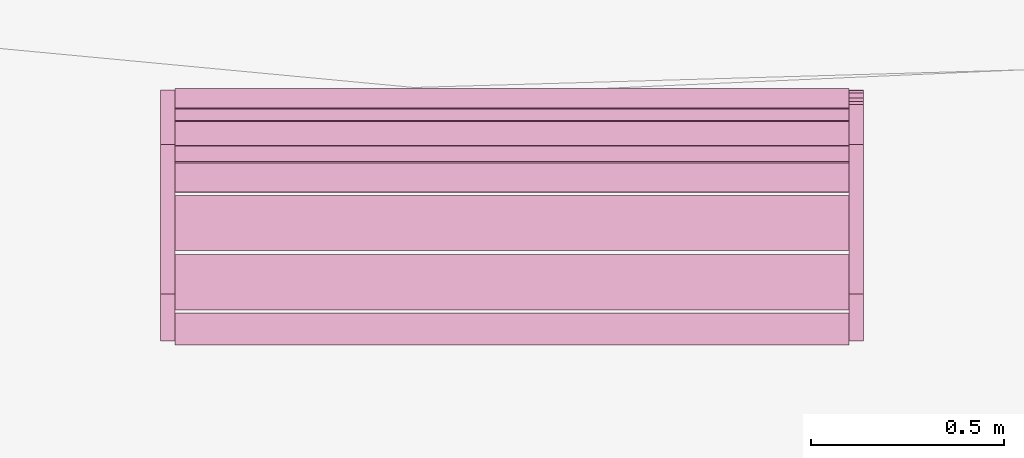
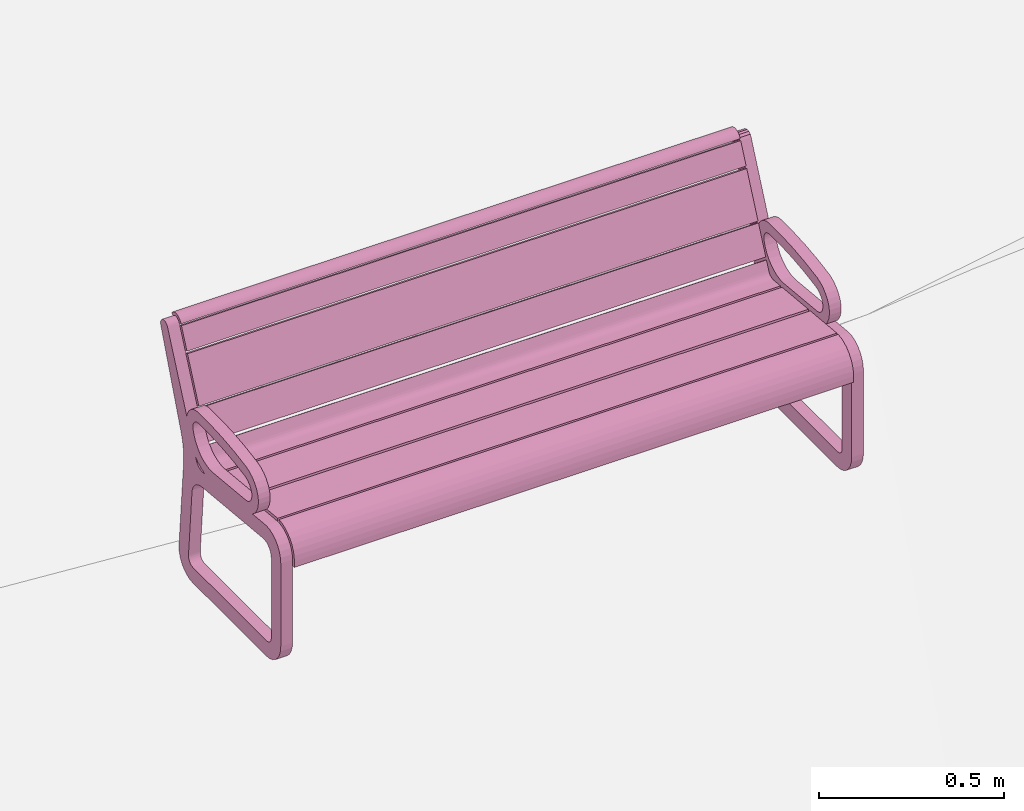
# One storey, part 57 of 75: 1 furnishing.
"""IFC2X3 building model written with IfcOpenShell, lengths in metres."""

from ifc_helpers import new_model, entity, si_unit, converted_unit, derived_unit, direction, frame, frame_2d, origin, place, context, subcontext, project, spatial, polyline, circle_curve, parameter, trimmed, segment, composite_curve, outline, extrude, source, transform, mapped, material, material_list, type_object, type_shapes, element, save


model = new_model("IFC2X3")

# Units and contexts
model_context = context("Model", 3, precision=1e-05, world=origin(), true_north=direction((6.123031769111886e-17, 1.0)))
body_context = subcontext(model_context, "Body", "Model", "MODEL_VIEW")
ifc_project = project(units=[si_unit("LENGTHUNIT", "METRE"), si_unit("AREAUNIT", "SQUARE_METRE"), si_unit("VOLUMEUNIT", "CUBIC_METRE"), converted_unit("PLANEANGLEUNIT", "DEGREE", entity("IfcRatioMeasure", 0.017453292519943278), si_unit("PLANEANGLEUNIT", "RADIAN"), dimensions=[0, 0, 0, 0, 0, 0, 0]), si_unit("MASSUNIT", "GRAM", prefix="KILO"), derived_unit("MASSDENSITYUNIT", [(si_unit("MASSUNIT", "GRAM", prefix="KILO"), 1), (si_unit("LENGTHUNIT", "METRE"), -3)]), derived_unit("IONCONCENTRATIONUNIT", [(si_unit("MASSUNIT", "GRAM", prefix="KILO"), 1), (si_unit("LENGTHUNIT", "METRE"), -3)]), derived_unit("MOMENTOFINERTIAUNIT", [(si_unit("LENGTHUNIT", "METRE"), 4)]), si_unit("TIMEUNIT", "SECOND"), si_unit("FREQUENCYUNIT", "HERTZ"), si_unit("THERMODYNAMICTEMPERATUREUNIT", "DEGREE_CELSIUS"), derived_unit("THERMALTRANSMITTANCEUNIT", [(si_unit("MASSUNIT", "GRAM", prefix="KILO"), 1), (si_unit("THERMODYNAMICTEMPERATUREUNIT", "KELVIN"), -1), (si_unit("TIMEUNIT", "SECOND"), -3)]), derived_unit("THERMALCONDUCTANCEUNIT", [(si_unit("MASSUNIT", "GRAM", prefix="KILO"), 1), (si_unit("THERMODYNAMICTEMPERATUREUNIT", "KELVIN"), -1), (si_unit("TIMEUNIT", "SECOND"), -3), (si_unit("LENGTHUNIT", "METRE"), 1)]), derived_unit("VOLUMETRICFLOWRATEUNIT", [(si_unit("LENGTHUNIT", "METRE"), 3), (si_unit("TIMEUNIT", "SECOND"), -1)]), derived_unit("MASSFLOWRATEUNIT", [(si_unit("MASSUNIT", "GRAM", prefix="KILO"), 1), (si_unit("TIMEUNIT", "SECOND"), -1)]), derived_unit("ROTATIONALFREQUENCYUNIT", [(si_unit("TIMEUNIT", "SECOND"), -1)]), si_unit("ELECTRICCURRENTUNIT", "AMPERE"), si_unit("ELECTRICVOLTAGEUNIT", "VOLT"), si_unit("POWERUNIT", "WATT"), si_unit("FORCEUNIT", "NEWTON", prefix="KILO"), si_unit("ILLUMINANCEUNIT", "LUX"), si_unit("LUMINOUSFLUXUNIT", "LUMEN"), si_unit("LUMINOUSINTENSITYUNIT", "CANDELA"), derived_unit("USERDEFINED", [(si_unit("MASSUNIT", "GRAM", prefix="KILO"), -1), (si_unit("LENGTHUNIT", "METRE"), -2), (si_unit("TIMEUNIT", "SECOND"), 3), (si_unit("LUMINOUSFLUXUNIT", "LUMEN"), 1)]), derived_unit("USERDEFINED", [(si_unit("MASSUNIT", "GRAM", prefix="KILO"), 1), (si_unit("TIMEUNIT", "SECOND"), -3), (si_unit("LENGTHUNIT", "METRE"), 3), (si_unit("ELECTRICCURRENTUNIT", "AMPERE"), -2)]), derived_unit("SOUNDPOWERUNIT", [(si_unit("MASSUNIT", "GRAM", prefix="KILO"), 1), (si_unit("TIMEUNIT", "SECOND"), -3), (si_unit("LENGTHUNIT", "METRE"), 2)]), derived_unit("SOUNDPRESSUREUNIT", [(si_unit("MASSUNIT", "GRAM", prefix="KILO"), 1), (si_unit("LENGTHUNIT", "METRE"), -1), (si_unit("TIMEUNIT", "SECOND"), -2)]), derived_unit("LINEARVELOCITYUNIT", [(si_unit("LENGTHUNIT", "METRE"), 1), (si_unit("TIMEUNIT", "SECOND"), -1)]), si_unit("PRESSUREUNIT", "PASCAL"), derived_unit("USERDEFINED", [(si_unit("MASSUNIT", "GRAM", prefix="KILO"), 1), (si_unit("LENGTHUNIT", "METRE"), -2), (si_unit("TIMEUNIT", "SECOND"), -2)]), derived_unit("LINEARFORCEUNIT", [(si_unit("MASSUNIT", "GRAM", prefix="KILO"), 1), (si_unit("TIMEUNIT", "SECOND"), -2)]), derived_unit("PLANARFORCEUNIT", [(si_unit("MASSUNIT", "GRAM", prefix="KILO"), 1), (si_unit("LENGTHUNIT", "METRE"), -1), (si_unit("TIMEUNIT", "SECOND"), -2)]), derived_unit("SPECIFICHEATCAPACITYUNIT", [(si_unit("THERMODYNAMICTEMPERATUREUNIT", "KELVIN"), -1), (si_unit("LENGTHUNIT", "METRE"), 2), (si_unit("TIMEUNIT", "SECOND"), -2)]), derived_unit("HEATINGVALUEUNIT", [(si_unit("LENGTHUNIT", "METRE"), 2), (si_unit("TIMEUNIT", "SECOND"), -2)]), derived_unit("VAPORPERMEABILITYUNIT", [(si_unit("LENGTHUNIT", "METRE"), -1), (si_unit("TIMEUNIT", "SECOND"), 1)]), derived_unit("DYNAMICVISCOSITYUNIT", [(si_unit("MASSUNIT", "GRAM", prefix="KILO"), 1), (si_unit("TIMEUNIT", "SECOND"), -1), (si_unit("LENGTHUNIT", "METRE"), -1)]), derived_unit("THERMALEXPANSIONCOEFFICIENTUNIT", [(si_unit("THERMODYNAMICTEMPERATUREUNIT", "KELVIN"), -1)]), derived_unit("MODULUSOFELASTICITYUNIT", [(si_unit("MASSUNIT", "GRAM", prefix="KILO"), 1), (si_unit("LENGTHUNIT", "METRE"), -1), (si_unit("TIMEUNIT", "SECOND"), -2)]), derived_unit("ISOTHERMALMOISTURECAPACITYUNIT", [(si_unit("LENGTHUNIT", "METRE"), 3), (si_unit("MASSUNIT", "GRAM", prefix="KILO"), -1)]), derived_unit("MOISTUREDIFFUSIVITYUNIT", [(si_unit("TIMEUNIT", "SECOND"), -1), (si_unit("LENGTHUNIT", "METRE"), 2)])], contexts=[model_context])

# Site, building, storey
site_placement = place(None, origin())
site = spatial("IfcSite", under=ifc_project, at=site_placement, Name="Default", CompositionType="ELEMENT")
building_placement = place(site_placement, origin())
building = spatial("IfcBuilding", under=site, at=building_placement, Name="Projeto", CompositionType="ELEMENT")
storey_placement = place(building_placement, origin())
storey = spatial("IfcBuildingStorey", under=building, at=storey_placement, Name="Nível 1", CompositionType="ELEMENT", Elevation=0.0)

# Furnishing
ifc_material_1 = material(Name="Metal")
ifc_material_2 = material(Name="Madeira")
ifc_material_list = material_list([ifc_material_1, ifc_material_2])
furniture_type = type_object("IfcFurnitureType", Name="Banco2:Banco com encosto 2", material=ifc_material_list)
shared_shape = source(origin(), body_context, "Body", "SweptSolid", [
    extrude(outline(composite_curve([segment(trimmed(circle_curve(frame_2d((0.11049343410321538, -1.0854981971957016), x_axis=(1.0, 0.0)), 1.171677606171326), [parameter(88.41710441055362)], [parameter(101.21342132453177)], True, "PARAMETER"), True, "CONTINUOUS"), segment(trimmed(circle_curve(frame_2d((-0.09835310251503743, -0.021288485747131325), x_axis=(1.0, 0.0)), 0.08719596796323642), [parameter(102.58755744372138)], [parameter(147.59513327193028)], True, "PARAMETER"), True, "CONTINUOUS"), segment(trimmed(circle_curve(frame_2d((-0.11287135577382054, -0.01207319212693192), x_axis=(1.0, 0.0)), 0.07), [parameter(147.59513327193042)], [parameter(264.4181452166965)], True, "PARAMETER"), True, "CONTINUOUS"), segment(polyline([(-0.11968009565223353, -0.08174126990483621), (0.06172922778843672, -0.09947060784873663)]), True, "CONTINUOUS"), segment(trimmed(circle_curve(frame_2d((0.07131434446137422, 0.036752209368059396), x_axis=(1.0, 0.0)), 0.1365596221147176), [parameter(265.97510108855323)], [parameter(347.08405761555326)], True, "PARAMETER"), True, "CONTINUOUS"), segment(trimmed(circle_curve(frame_2d((0.14106343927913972, 0.02075710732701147), x_axis=(1.0, 0.0)), 0.06499999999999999), [parameter(347.08405761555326)], [parameter(88.41710441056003)], True, "PARAMETER"), True, "CONTINUOUS")], self_intersect=False), holes=[composite_curve([segment(trimmed(circle_curve(frame_2d((0.11049343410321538, -1.0854981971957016), x_axis=(1.0, 0.0)), 1.136677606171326), [parameter(88.41710441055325)], [parameter(101.1897224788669)], True, "PARAMETER"), False, "CONTINUOUS"), segment(trimmed(circle_curve(frame_2d((0.14106343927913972, 0.02075710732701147), x_axis=(1.0, 0.0)), 0.03), [parameter(347.0840576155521)], [parameter(88.41710441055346)], True, "PARAMETER"), False, "CONTINUOUS"), segment(trimmed(circle_curve(frame_2d((0.07131434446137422, 0.036752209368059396), x_axis=(1.0, 0.0)), 0.10155962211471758), [parameter(266.2235788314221)], [parameter(347.0840576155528)], True, "PARAMETER"), False, "CONTINUOUS"), segment(polyline([(0.06462529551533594, -0.06458689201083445), (-0.11627572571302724, -0.04690723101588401)]), True, "CONTINUOUS"), segment(trimmed(circle_curve(frame_2d((-0.11287135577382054, -0.01207319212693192), x_axis=(1.0, 0.0)), 0.035), [parameter(147.5951332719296)], [parameter(264.418145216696)], True, "PARAMETER"), False, "CONTINUOUS"), segment(trimmed(circle_curve(frame_2d((-0.09835310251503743, -0.021288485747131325), x_axis=(1.0, 0.0)), 0.052195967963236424), [parameter(102.99295780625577)], [parameter(147.5951332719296)], True, "PARAMETER"), False, "CONTINUOUS")], self_intersect=False)]), frame((-0.9081480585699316, 0.012362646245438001, 0.4935308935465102), z_axis=(1.0, 0.0, 0.0), x_axis=(0.0, 1.0, 0.0)), (0.0, 0.0, 1.0), 0.036770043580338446),
    extrude(outline(composite_curve([segment(trimmed(circle_curve(frame_2d((-0.11287135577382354, -0.012073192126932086), x_axis=(1.0, 0.0)), 0.07), [parameter(147.59513327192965)], [parameter(264.4181452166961)], True, "PARAMETER"), True, "CONTINUOUS"), segment(polyline([(-0.11968009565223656, -0.08174126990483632), (0.06172922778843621, -0.09947060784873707)]), True, "CONTINUOUS"), segment(trimmed(circle_curve(frame_2d((0.07131434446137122, 0.03675220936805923), x_axis=(1.0, 0.0)), 0.1365596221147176), [parameter(265.9751010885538)], [parameter(347.0840576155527)], True, "PARAMETER"), True, "CONTINUOUS"), segment(trimmed(circle_curve(frame_2d((0.14106343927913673, 0.020757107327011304), x_axis=(1.0, 0.0)), 0.06499999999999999), [parameter(347.08405761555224)], [parameter(88.41710441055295)], True, "PARAMETER"), True, "CONTINUOUS"), segment(trimmed(circle_curve(frame_2d((0.11049343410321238, -1.0854981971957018), x_axis=(1.0, 0.0)), 1.171677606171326), [parameter(88.41710441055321)], [parameter(101.21342132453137)], True, "PARAMETER"), True, "CONTINUOUS"), segment(trimmed(circle_curve(frame_2d((-0.09835310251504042, -0.02128848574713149), x_axis=(1.0, 0.0)), 0.08719596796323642), [parameter(102.587557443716)], [parameter(147.5951332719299)], True, "PARAMETER"), True, "CONTINUOUS")], self_intersect=False), holes=[composite_curve([segment(trimmed(circle_curve(frame_2d((0.11049343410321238, -1.0854981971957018), x_axis=(1.0, 0.0)), 1.136677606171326), [parameter(88.41710441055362)], [parameter(101.18972247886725)], True, "PARAMETER"), False, "CONTINUOUS"), segment(trimmed(circle_curve(frame_2d((0.14106343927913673, 0.020757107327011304), x_axis=(1.0, 0.0)), 0.03), [parameter(347.0840576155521)], [parameter(88.4171044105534)], True, "PARAMETER"), False, "CONTINUOUS"), segment(trimmed(circle_curve(frame_2d((0.07131434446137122, 0.03675220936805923), x_axis=(1.0, 0.0)), 0.10155962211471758), [parameter(266.2235788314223)], [parameter(347.08405761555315)], True, "PARAMETER"), False, "CONTINUOUS"), segment(polyline([(0.064625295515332, -0.06458689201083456), (-0.11627572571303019, -0.04690723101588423)]), True, "CONTINUOUS"), segment(trimmed(circle_curve(frame_2d((-0.11287135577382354, -0.012073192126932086), x_axis=(1.0, 0.0)), 0.035), [parameter(147.59513327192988)], [parameter(264.41814521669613)], True, "PARAMETER"), False, "CONTINUOUS"), segment(trimmed(circle_curve(frame_2d((-0.09835310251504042, -0.02128848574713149), x_axis=(1.0, 0.0)), 0.052195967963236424), [parameter(102.99295780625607)], [parameter(147.59513327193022)], True, "PARAMETER"), False, "CONTINUOUS")], self_intersect=False)]), frame((0.8717509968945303, 0.012362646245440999, 0.49353089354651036), z_axis=(1.0, 0.0, 0.0), x_axis=(0.0, 1.0, 0.0)), (0.0, 0.0, 1.0), 0.036770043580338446),
    extrude(outline(composite_curve([segment(polyline([(-0.040740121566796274, -0.021081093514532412), (-0.040740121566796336, -0.031081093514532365)]), True, "CONTINUOUS"), segment(polyline([(-0.040740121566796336, -0.031081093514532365), (-0.020775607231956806, -0.0310810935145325)]), True, "CONTINUOUS"), segment(trimmed(circle_curve(frame_2d((-0.020775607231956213, 0.056315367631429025), x_axis=(0.0, 1.0)), 0.08739646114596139), [parameter(179.99999999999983)], [parameter(267.27621266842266)], True, "PARAMETER"), True, "CONTINUOUS"), segment(polyline([(0.0665221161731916, 0.05216218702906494), (0.056509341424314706, 0.05216218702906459)]), True, "CONTINUOUS"), segment(trimmed(circle_curve(frame_2d((-0.020775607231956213, 0.056315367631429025), x_axis=(0.0, 1.0)), 0.0773964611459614), [parameter(179.99999999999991)], [parameter(266.9239669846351)], True, "PARAMETER"), False, "CONTINUOUS"), segment(polyline([(-0.020775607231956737, -0.02108109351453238), (-0.040740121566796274, -0.021081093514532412)]), True, "CONTINUOUS")], self_intersect=False)), frame((-0.8713780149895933, -0.2701642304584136, 0.37277559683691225), z_axis=(-1.0, 0.0, 0.0), x_axis=(0.0, 0.0, 1.0)), (0.0, 0.0, -1.0), 1.743129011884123),
    extrude(outline(composite_curve([segment(polyline([(-0.016599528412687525, 0.004708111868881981), (-0.02584492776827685, 0.0008972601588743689)]), True, "CONTINUOUS"), segment(trimmed(circle_curve(frame_2d((0.0016188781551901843, 0.01221753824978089), x_axis=(1.0, 0.0)), 0.02970537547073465), [parameter(202.40091685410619)], [parameter(321.2632484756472)], True, "PARAMETER"), True, "CONTINUOUS"), segment(polyline([(0.024789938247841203, -0.006370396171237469), (0.017654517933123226, 0.0007650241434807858)]), True, "CONTINUOUS"), segment(trimmed(circle_curve(frame_2d((0.0016188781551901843, 0.01221753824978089), x_axis=(1.0, 0.0)), 0.019705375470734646), [parameter(202.40091685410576)], [parameter(324.4659051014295)], True, "PARAMETER"), False, "CONTINUOUS")], self_intersect=False)), frame((-0.8713780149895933, 0.33648155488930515, 0.7644854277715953), z_axis=(-1.0, 0.0, 0.0), x_axis=(0.0, 1.0, 0.0)), (0.0, 0.0, -1.0), 1.743129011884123),
    extrude(outline(polyline([(-0.005365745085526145, -0.03631564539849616), (0.004634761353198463, -0.03631564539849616), (0.0053668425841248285, 0.036424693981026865), (-0.004635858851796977, 0.036206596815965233), (-0.005365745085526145, -0.03631564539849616)])), frame((-0.8713780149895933, 0.29830144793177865, 0.7240027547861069), z_axis=(1.0, 0.0, 0.0), x_axis=(0.0, 0.91601310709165, -0.40114833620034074)), (0.0, 0.0, 1.0), 1.7431290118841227),
    extrude(outline(polyline([(-0.01051906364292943, -0.07449598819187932), (-0.0004917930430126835, -0.07449598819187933), (0.010495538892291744, 0.07417766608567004), (0.0005153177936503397, 0.0748143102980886), (-0.01051906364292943, -0.07449598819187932)])), frame((-0.8713780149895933, 0.24994106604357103, 0.6165295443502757), z_axis=(1.0, 0.0, 0.0), x_axis=(0.0, -0.9396926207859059, 0.3420201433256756)), (0.0, 0.0, 1.0), 1.743129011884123),
    extrude(outline(composite_curve([segment(polyline([(-0.016081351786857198, -0.043029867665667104), (-0.00588824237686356, -0.043029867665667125)]), True, "CONTINUOUS"), segment(polyline([(-0.00588824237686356, -0.043029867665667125), (-0.011979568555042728, -0.01218317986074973)]), True, "CONTINUOUS"), segment(trimmed(circle_curve(frame_2d((0.012546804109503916, -0.007339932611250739), x_axis=(-0.81515665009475, -0.5792405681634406)), 0.024999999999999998), [parameter(264.5723980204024)], [parameter(335.77339088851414)], True, "PARAMETER"), False, "CONTINUOUS"), segment(polyline([(5.8314439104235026e-05, 0.014317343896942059), (0.03294269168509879, 0.03327984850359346)]), True, "CONTINUOUS"), segment(polyline([(0.03294269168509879, 0.03327984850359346), (0.027675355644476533, 0.041785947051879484)]), True, "CONTINUOUS"), segment(polyline([(0.027675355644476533, 0.041785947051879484), (-0.004937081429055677, 0.022980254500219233)]), True, "CONTINUOUS"), segment(trimmed(circle_curve(frame_2d((0.012546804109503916, -0.007339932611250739), x_axis=(-0.81515665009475, -0.5792405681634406)), 0.035), [parameter(264.57239802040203)], [parameter(335.77339088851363)], True, "PARAMETER"), True, "CONTINUOUS"), segment(polyline([(-0.021790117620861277, -0.014120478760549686), (-0.016081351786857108, -0.043029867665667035)]), True, "CONTINUOUS")], self_intersect=False)), frame((-0.8713780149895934, 0.13977130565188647, 0.4182722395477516), z_axis=(1.0, 0.0, 0.0), x_axis=(0.0, -0.8151566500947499, 0.5792405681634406)), (0.0, 0.0, 1.0), 1.743129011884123),
    extrude(outline(polyline([(-0.006796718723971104, -0.07203279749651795), (0.003206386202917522, -0.07203279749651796), (0.006796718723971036, 0.07203279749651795), (-0.003206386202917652, 0.07203279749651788), (-0.006796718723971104, -0.07203279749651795)])), frame((-0.8713780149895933, -0.1393406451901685, 0.4273396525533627), z_axis=(1.0, 0.0, 0.0), x_axis=(0.0, -0.0697564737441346, -0.9975640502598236)), (0.0, 0.0, 1.0), 1.743129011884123),
    extrude(outline(polyline([(-0.006778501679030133, -0.07130182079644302), (0.003224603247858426, -0.07130182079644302), (0.006776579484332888, 0.07122469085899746), (-0.003222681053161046, 0.07137895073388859), (-0.006778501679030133, -0.07130182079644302)])), frame((-0.8713780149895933, 0.013742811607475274, 0.4127945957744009), z_axis=(1.0, 0.0, 0.0), x_axis=(0.0, -0.06975647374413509, -0.9975640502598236)), (0.0, 0.0, 1.0), 1.7431290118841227),
    extrude(outline(polyline([(-0.048450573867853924, -0.004999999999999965), (0.04809148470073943, -0.00499999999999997), (0.04845057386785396, 0.004999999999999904), (-0.04809148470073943, 0.00499999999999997), (-0.048450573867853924, -0.004999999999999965)])), frame((-0.8713780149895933, 0.19719686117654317, 0.49931398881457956), z_axis=(1.0, 0.0, 0.0), x_axis=(0.0, 0.41034659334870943, 0.9119296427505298)), (0.0, 0.0, 1.0), 1.743129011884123),
    extrude(outline(composite_curve([segment(trimmed(circle_curve(frame_2d((0.11053550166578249, -0.26531949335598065), x_axis=(1.0, 0.0)), 0.0741700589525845), [parameter(269.9999999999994)], [parameter(359.99999999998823)], True, "PARAMETER"), True, "CONTINUOUS"), segment(polyline([(0.18470556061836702, -0.2653194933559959), (0.1595525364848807, 0.022180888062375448)]), True, "CONTINUOUS"), segment(trimmed(circle_curve(frame_2d((0.37871537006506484, 0.04135515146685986), x_axis=(1.0, 0.0)), 0.22), [parameter(159.0616200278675)], [parameter(184.99999999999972)], True, "PARAMETER"), False, "CONTINUOUS"), segment(polyline([(0.17324300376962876, 0.11997516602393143), (0.28258397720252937, 0.4057363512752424)]), True, "CONTINUOUS"), segment(trimmed(circle_curve(frame_2d((0.26417984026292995, 0.4127783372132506), x_axis=(1.0, 0.0)), 0.019705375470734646), [parameter(339.0616200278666)], [parameter(157.59908314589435)], True, "PARAMETER"), True, "CONTINUOUS"), segment(polyline([(0.2459614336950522, 0.4202877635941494), (0.09179222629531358, 0.0776713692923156)]), True, "CONTINUOUS"), segment(trimmed(circle_curve(frame_2d((0.05987468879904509, 0.09203350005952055), x_axis=(1.0, 0.0)), 0.035), [parameter(264.57239802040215)], [parameter(335.7733908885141)], True, "PARAMETER"), False, "CONTINUOUS"), segment(polyline([(0.05656411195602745, 0.05719042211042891), (-0.28776945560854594, 0.08990689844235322)]), True, "CONTINUOUS"), segment(trimmed(circle_curve(frame_2d((-0.28776945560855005, 0.012510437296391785), x_axis=(1.0, 0.0)), 0.0773964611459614), [parameter(89.99999999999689)], [parameter(180.00000000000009)], True, "PARAMETER"), True, "CONTINUOUS"), segment(polyline([(-0.3651659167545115, 0.012510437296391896), (-0.36516591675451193, -0.26116069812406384)]), True, "CONTINUOUS"), segment(trimmed(circle_curve(frame_2d((-0.28683706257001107, -0.2611606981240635), x_axis=(1.0, 0.0)), 0.07832885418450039), [parameter(180.00000000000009)], [parameter(269.9999999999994)], True, "PARAMETER"), True, "CONTINUOUS"), segment(polyline([(-0.2868370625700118, -0.33948955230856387), (0.11053550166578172, -0.33948955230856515)]), True, "CONTINUOUS")], self_intersect=False), holes=[composite_curve([segment(trimmed(circle_curve(frame_2d((-0.2900072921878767, -0.2643739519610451), x_axis=(1.0, 0.0)), 0.024093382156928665), [parameter(180.00000000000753)], [parameter(269.99996988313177)], True, "PARAMETER"), False, "CONTINUOUS"), segment(polyline([(-0.3141006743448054, -0.2643739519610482), (-0.31424768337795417, -0.002024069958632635)]), True, "CONTINUOUS"), segment(trimmed(circle_curve(frame_2d((-0.27424768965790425, -0.0020016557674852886), x_axis=(1.0, 0.0)), 0.04), [parameter(84.55058713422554)], [parameter(180.03210596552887)], True, "PARAMETER"), False, "CONTINUOUS"), segment(polyline([(-0.270449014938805, 0.03781756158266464), (0.06271226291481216, 0.006034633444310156)]), True, "CONTINUOUS"), segment(trimmed(circle_curve(frame_2d((0.0571819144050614, -0.05217104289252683), x_axis=(1.0, 0.0)), 0.058467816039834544), [parameter(15.427601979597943)], [parameter(84.57239802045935)], True, "PARAMETER"), False, "CONTINUOUS"), segment(polyline([(0.11354298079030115, -0.03661740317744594), (0.1331318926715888, -0.2624531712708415)]), True, "CONTINUOUS"), segment(trimmed(circle_curve(frame_2d((0.10927631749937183, -0.26452239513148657), x_axis=(1.0, 0.0)), 0.023945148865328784), [parameter(269.9999698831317)], [parameter(4.957407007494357)], True, "PARAMETER"), False, "CONTINUOUS"), segment(polyline([(0.10927630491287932, -0.28846754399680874), (-0.2900073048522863, -0.28846733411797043)]), True, "CONTINUOUS")], self_intersect=False)]), frame((-0.9081480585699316, 0.07392059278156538, 0.33948955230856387), z_axis=(1.0, 0.0, 0.0), x_axis=(0.0, 1.0, 0.0)), (0.0, 0.0, 1.0), 0.036770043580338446),
    extrude(outline(composite_curve([segment(polyline([(0.18938114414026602, -0.4554192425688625), (0.4161258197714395, -0.45541924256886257)]), True, "CONTINUOUS"), segment(trimmed(circle_curve(frame_2d((0.4161258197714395, -0.37709038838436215), x_axis=(0.0, 1.0)), 0.07832885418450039), [parameter(179.99999999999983)], [parameter(269.9999999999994)], True, "PARAMETER"), True, "CONTINUOUS"), segment(polyline([(0.49445467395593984, -0.3770903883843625), (0.4944546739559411, 0.02028217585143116)]), True, "CONTINUOUS"), segment(trimmed(circle_curve(frame_2d((0.4202846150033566, 0.02028217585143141), x_axis=(0.0, 1.0)), 0.0741700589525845), [parameter(269.9999999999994)], [parameter(359.9999999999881)], True, "PARAMETER"), True, "CONTINUOUS"), segment(polyline([(0.42028461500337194, 0.09445223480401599), (0.14135009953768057, 0.070048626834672)]), True, "CONTINUOUS"), segment(polyline([(0.14135009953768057, 0.070048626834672), (0.06724466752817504, 0.0706480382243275)]), True, "CONTINUOUS"), segment(polyline([(0.06724466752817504, 0.0706480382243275), (0.05054245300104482, 0.07293143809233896)]), True, "CONTINUOUS"), segment(polyline([(0.05054245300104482, 0.07293143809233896), (0.02318042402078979, 0.0792697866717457)]), True, "CONTINUOUS"), segment(polyline([(0.02318042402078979, 0.0792697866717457), (-0.008439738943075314, 0.09091696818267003)]), True, "CONTINUOUS"), segment(polyline([(-0.008439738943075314, 0.09091696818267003), (-0.239525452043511, 0.19019917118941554)]), True, "CONTINUOUS"), segment(polyline([(-0.239525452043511, 0.19019917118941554), (-0.24897247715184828, 0.19267336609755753)]), True, "CONTINUOUS"), segment(polyline([(-0.24897247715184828, 0.19267336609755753), (-0.2585521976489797, 0.1908481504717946)]), True, "CONTINUOUS"), segment(polyline([(-0.2585521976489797, 0.1908481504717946), (-0.26637134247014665, 0.18502063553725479)]), True, "CONTINUOUS"), segment(polyline([(-0.26637134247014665, 0.18502063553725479), (-0.27153759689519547, 0.17151869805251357)]), True, "CONTINUOUS"), segment(polyline([(-0.27153759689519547, 0.17151869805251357), (-0.2700706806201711, 0.16306645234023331)]), True, "CONTINUOUS"), segment(polyline([(-0.2700706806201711, 0.16306645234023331), (-0.2653226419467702, 0.1557081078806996)]), True, "CONTINUOUS"), segment(polyline([(-0.2653226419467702, 0.1557081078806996), (-0.25852015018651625, 0.1510151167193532)]), True, "CONTINUOUS"), segment(polyline([(-0.25852015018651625, 0.1510151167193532), (0.042700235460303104, 0.017105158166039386)]), True, "CONTINUOUS"), segment(polyline([(0.042700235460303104, 0.017105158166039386), (0.05453047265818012, 0.009731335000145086)]), True, "CONTINUOUS"), segment(polyline([(0.05453047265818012, 0.009731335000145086), (0.066355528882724, 0.0005990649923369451)]), True, "CONTINUOUS"), segment(polyline([(0.066355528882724, 0.0005990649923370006), (0.07245721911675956, -0.0055026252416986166)]), True, "CONTINUOUS"), segment(polyline([(0.07245721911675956, -0.0055026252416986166), (0.09064669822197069, -0.043723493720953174)]), True, "CONTINUOUS"), segment(polyline([(0.09064669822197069, -0.043723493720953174), (0.09238455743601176, -0.054096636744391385)]), True, "CONTINUOUS"), segment(polyline([(0.09238455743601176, -0.054096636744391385), (0.09388937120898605, -0.07458142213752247)]), True, "CONTINUOUS"), segment(polyline([(0.09388937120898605, -0.07458142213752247), (0.06505822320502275, -0.37802278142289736)]), True, "CONTINUOUS"), segment(trimmed(circle_curve(frame_2d((0.14245468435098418, -0.37802278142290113), x_axis=(0.0, 1.0)), 0.0773964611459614), [parameter(89.99999999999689)], [parameter(179.99999999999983)], True, "PARAMETER"), True, "CONTINUOUS"), segment(polyline([(0.14245468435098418, -0.4554192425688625), (0.18938114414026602, -0.4554192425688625)]), True, "CONTINUOUS")], self_intersect=False), holes=[composite_curve([segment(trimmed(circle_curve(frame_2d((0.41933907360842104, -0.38026061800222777), x_axis=(0.0, 1.0)), 0.024093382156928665), [parameter(180.0000000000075)], [parameter(269.99996988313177)], True, "PARAMETER"), False, "CONTINUOUS"), segment(polyline([(0.41933907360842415, -0.4043540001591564), (0.145329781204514, -0.40450754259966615)]), True, "CONTINUOUS"), segment(trimmed(circle_curve(frame_2d((0.14531330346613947, -0.3751016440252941), x_axis=(0.0, 1.0)), 0.029405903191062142), [parameter(90.00000904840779)], [parameter(180.03210596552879)], True, "PARAMETER"), False, "CONTINUOUS"), segment(polyline([(0.11590740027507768, -0.37510164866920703), (0.14893048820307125, -0.027541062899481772)]), True, "CONTINUOUS"), segment(trimmed(circle_curve(frame_2d((0.2071361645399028, -0.03307141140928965), x_axis=(0.0, 1.0)), 0.058467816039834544), [parameter(15.427601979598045)], [parameter(84.57239802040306)], True, "PARAMETER"), False, "CONTINUOUS"), segment(polyline([(0.1915825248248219, 0.023289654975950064), (0.41741829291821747, 0.04287856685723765)]), True, "CONTINUOUS"), segment(trimmed(circle_curve(frame_2d((0.41948751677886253, 0.01902299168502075), x_axis=(0.0, 1.0)), 0.023945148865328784), [parameter(269.9999698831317)], [parameter(4.957407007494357)], True, "PARAMETER"), False, "CONTINUOUS"), segment(polyline([(0.4434326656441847, 0.019022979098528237), (0.4434324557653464, -0.3802606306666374)]), True, "CONTINUOUS")], self_intersect=False)]), frame((0.871750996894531, 0.16499093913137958, 0.49445467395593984), z_axis=(1.0, 0.0, 0.0), x_axis=(0.0, 0.0, -1.0)), (0.0, 0.0, 1.0), 0.036770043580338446),
])
type_shapes(furniture_type, [shared_shape])
furnishing_placement = place(storey_placement, frame((-7.091937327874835, 18.345936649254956, -2.5650523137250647)))
element("IfcFurnishingElement", 1, at=furnishing_placement, inside=storey, type_object=furniture_type, material=ifc_material_list, Name="Banco2:Banco com encosto 2", ObjectType="Banco2:Banco com encosto 2", context=body_context, shape_type="MappedRepresentation", body=[
    mapped(shared_shape, transform((0.0, 0.0, 0.0), scale=1.0)),
])

save(model, "model.ifc")
